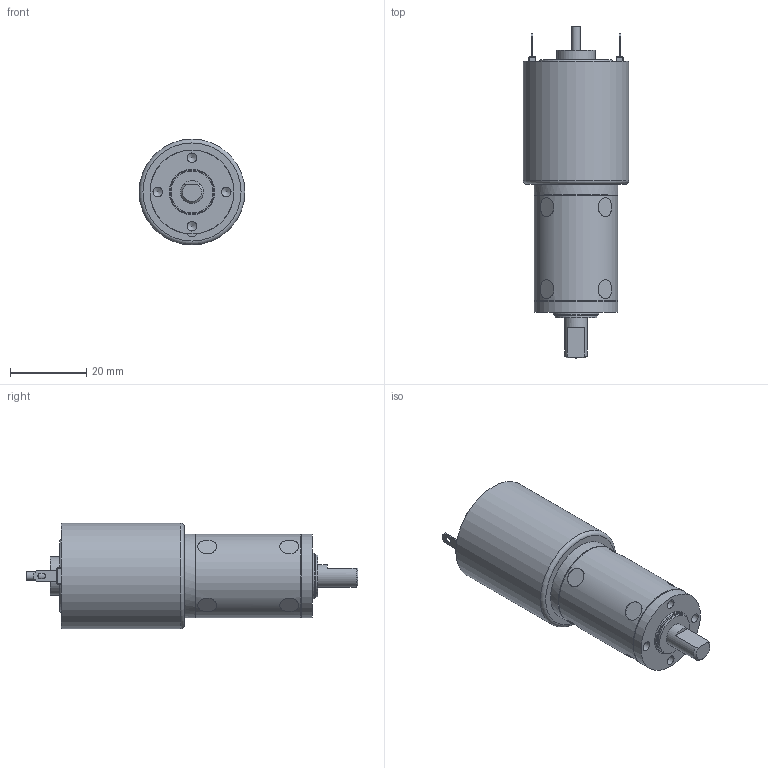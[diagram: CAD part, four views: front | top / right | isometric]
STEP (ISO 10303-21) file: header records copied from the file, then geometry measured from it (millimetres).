
FILE_DESCRIPTION((''),'2;1');
FILE_NAME('C:\Documents and Settings\SSEGAWA\デスクトップ\TP-2732D-KP-4.STP','2013-08-01T11:19:39',('SSEGAWA'),(''),'Autodesk Inventor 2010','Autodesk Inventor 2010','');
FILE_SCHEMA(('CONFIG_CONTROL_DESIGN'));
Length unit declared in the file: millimetre
Products named in the file (1): tp_2732def_kp_4_Shrinkwrap_1
Bounding box: 27.7 x 87 x 27.7 mm (x, y, z)
Volume: 32636.6 mm3; surface area: 7182.5 mm2
Topology: 1 solids, 3 shells, 160 faces, 346 edges, 224 vertices
Faces by surface type: plane 91, cylinder 36, bspline 29, torus 3, cone 1
Full cylindrical faces by diameter (mm): 2 x2, 2.305 x1, 2.5 x5, 5 x4, 6 x1, 9 x1, 10 x1, 11 x1, 11.5 x1, 12 x1, 19 x1, 21.6 x2, 22 x3, 26.7 x1, 27.7 x1
Entity records: 4631 total; most frequent: CARTESIAN_POINT 1275, DIRECTION 632, ORIENTED_EDGE 568, EDGE_CURVE 284, EDGE_LOOP 241, AXIS2_PLACEMENT_3D 234, VERTEX_POINT 207, VECTOR 164
